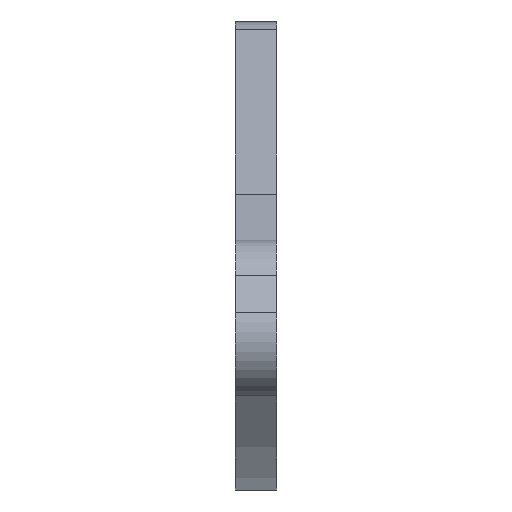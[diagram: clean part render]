
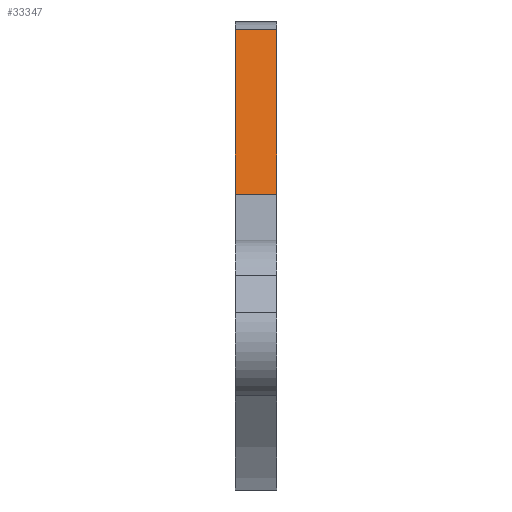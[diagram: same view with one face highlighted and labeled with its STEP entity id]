
A CAD part, top view. The second image highlights one B-rep face of the part: STEP entity #33347.
In plain terms, the highlighted planar face has unit normal (0, 0.88, 0.474).
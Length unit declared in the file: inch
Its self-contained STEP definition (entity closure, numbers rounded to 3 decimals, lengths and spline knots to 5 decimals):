
#928 = CARTESIAN_POINT ( 'NONE',  ( -0.125, -11.22975, 13.65297 ) ) ;
#1456 = ORIENTED_EDGE ( 'NONE', *, *, #36599, .T. ) ;
#1820 = DIRECTION ( 'NONE',  ( 0., -0.88, -0.474 ) ) ;
#2042 = FACE_OUTER_BOUND ( 'NONE', #14021, .T. ) ;
#2299 = LINE ( 'NONE', #13035, #33831 ) ;
#3206 = CARTESIAN_POINT ( 'NONE',  ( 0.125, -11.22975, 13.65297 ) ) ;
#5574 = EDGE_CURVE ( 'NONE', #32044, #37910, #2299, .T. ) ;
#6439 = LINE ( 'NONE', #41000, #41505 ) ;
#6897 = LINE ( 'NONE', #928, #39981 ) ;
#7120 = DIRECTION ( 'NONE',  ( 1., 0., 0. ) ) ;
#7552 = LINE ( 'NONE', #21518, #8979 ) ;
#8904 = DIRECTION ( 'NONE',  ( 0., 0.474, -0.88 ) ) ;
#8979 = VECTOR ( 'NONE', #35496, 39.37008 ) ;
#9991 = VERTEX_POINT ( 'NONE', #3206 ) ;
#12050 = CARTESIAN_POINT ( 'NONE',  ( -0.125, -11.22975, 13.65297 ) ) ;
#12259 = CARTESIAN_POINT ( 'NONE',  ( 0.125, -10.22159, 11.78234 ) ) ;
#12337 = CARTESIAN_POINT ( 'NONE',  ( -0.125, -10.72567, 12.71766 ) ) ;
#13035 = CARTESIAN_POINT ( 'NONE',  ( -0.125, -10.72567, 12.71766 ) ) ;
#14021 = EDGE_LOOP ( 'NONE', ( #32943, #34460, #44948, #1456 ) ) ;
#14934 = VERTEX_POINT ( 'NONE', #12259 ) ;
#19886 = PLANE ( 'NONE',  #29724 ) ;
#20184 = DIRECTION ( 'NONE',  ( 1., 0., 0. ) ) ;
#21518 = CARTESIAN_POINT ( 'NONE',  ( 0.125, -10.72567, 12.71766 ) ) ;
#28826 = EDGE_CURVE ( 'NONE', #9991, #14934, #7552, .T. ) ;
#29724 = AXIS2_PLACEMENT_3D ( 'NONE', #12337, #1820, #8904 ) ;
#30243 = DIRECTION ( 'NONE',  ( 0., 0.474, -0.88 ) ) ;
#32044 = VERTEX_POINT ( 'NONE', #12050 ) ;
#32943 = ORIENTED_EDGE ( 'NONE', *, *, #28826, .T. ) ;
#33347 = ADVANCED_FACE ( 'NONE', ( #2042 ), #19886, .F. ) ;
#33831 = VECTOR ( 'NONE', #30243, 39.37008 ) ;
#34301 = CARTESIAN_POINT ( 'NONE',  ( -0.125, -10.22159, 11.78234 ) ) ;
#34460 = ORIENTED_EDGE ( 'NONE', *, *, #36423, .F. ) ;
#35496 = DIRECTION ( 'NONE',  ( 0., 0.474, -0.88 ) ) ;
#36423 = EDGE_CURVE ( 'NONE', #37910, #14934, #6439, .T. ) ;
#36599 = EDGE_CURVE ( 'NONE', #32044, #9991, #6897, .T. ) ;
#37910 = VERTEX_POINT ( 'NONE', #34301 ) ;
#39981 = VECTOR ( 'NONE', #7120, 39.37008 ) ;
#41000 = CARTESIAN_POINT ( 'NONE',  ( -0.125, -10.22159, 11.78234 ) ) ;
#41505 = VECTOR ( 'NONE', #20184, 39.37008 ) ;
#44948 = ORIENTED_EDGE ( 'NONE', *, *, #5574, .F. ) ;
